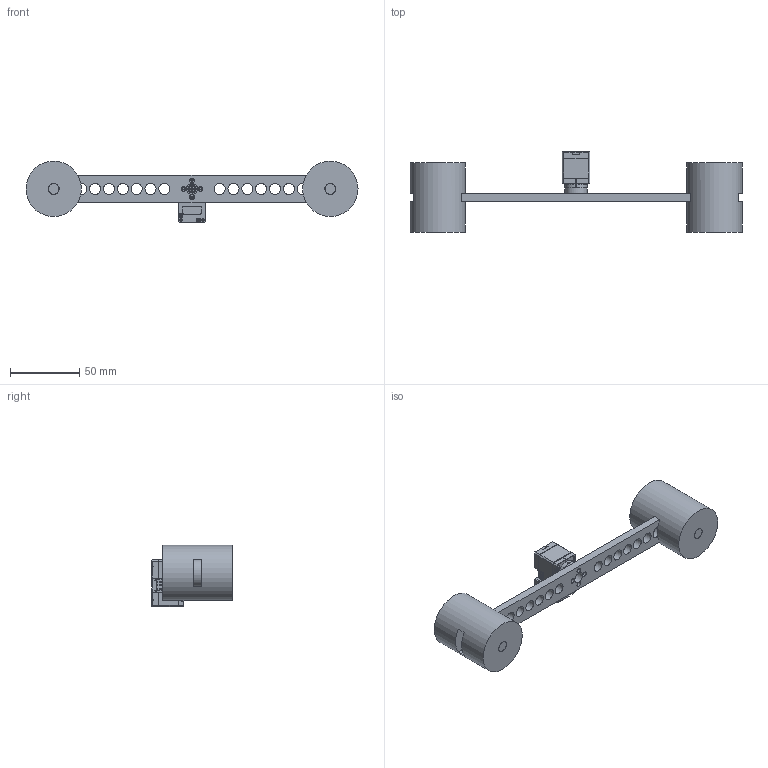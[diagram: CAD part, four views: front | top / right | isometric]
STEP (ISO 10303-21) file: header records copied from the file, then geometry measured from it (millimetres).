
FILE_DESCRIPTION(/* description */ (''),/* implementation_level */ '2;1');
FILE_NAME(/* name */ '1DOF-B2.step',/* time_stamp */ '2026-09-01T18:30:27+04:00',/* author */ (''),/* organization */ (''),/* preprocessor_version */ 'ST-DEVELOPER v20.1',/* originating_system */ 'Autodesk Translation Framework v15.8.0.0',/* authorisation */ '');
FILE_SCHEMA (('AUTOMOTIVE_DESIGN { 1 0 10303 214 3 1 1 }'));
Length unit declared in the file: millimetre
Products named in the file (5): 2026-08-25-18-26-11-038; 2026-08-23-02-38-30-805; 2026-08-23-13-27-59-025; 2026-08-23-13-33-12-551; 2026-08-23-13-34-08-997
Assembly tree (6 placements, depth 2):
  2026-08-25-18-26-11-038
    2026-08-23-02-38-30-805
    2026-08-23-13-27-59-025
    2026-08-23-13-33-12-551  x2
    2026-08-23-13-34-08-997  x2
Bounding box: 240 x 58 x 44.5 mm (x, y, z)
Volume: 150677.1 mm3; surface area: 44880.5 mm2
Topology: 6 solids, 16 shells, 624 faces, 1586 edges, 1031 vertices
Faces by surface type: plane 442, cylinder 151, cone 19, torus 7, sphere 5
Full cylindrical faces by diameter (mm): 1.4 x8, 1.6 x16, 1.8 x4, 2 x8, 2.2 x1, 3.5 x4, 5 x1, 5.2 x1, 5.6 x1, 6 x1, 6.7 x1, 7.68 x2, 7.8 x1, 8 x23, 10 x2, 14 x2, 16 x1, 40 x2
Entity records: 18822 total; most frequent: CARTESIAN_POINT 3393, DIRECTION 3160, ORIENTED_EDGE 3118, EDGE_CURVE 1559, LINE 1146, VECTOR 1146, VERTEX_POINT 1013, AXIS2_PLACEMENT_3D 1007
